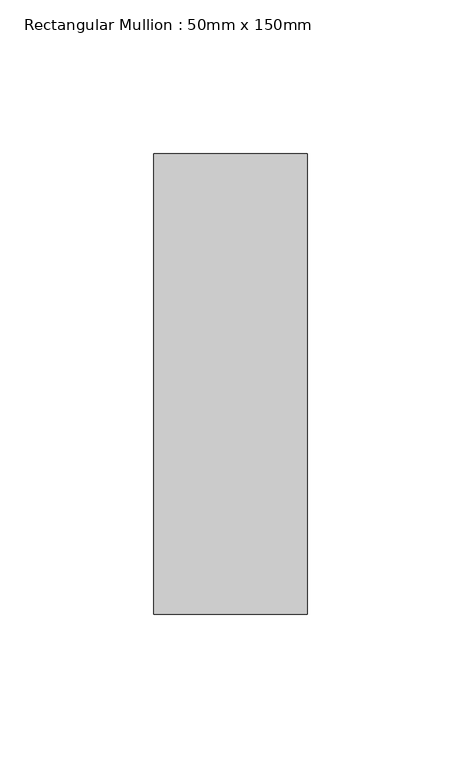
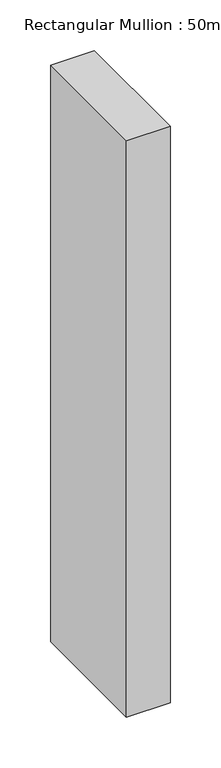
"""IFC4 building model written with IfcOpenShell, lengths in millimetres: member geometry, Rectangular Mullion : 50mm x 150mm."""

import ifcopenshell
import ifcopenshell.guid

model = None  # the IFC model being written
_history = None  # IfcOwnerHistory: only IFC2X3 demands one
_inside = {}  # id of a spatial element -> (the spatial element, [elements in it])
_under = {}  # id of a project, library or spatial element -> (it, [spatial elements below it])
_declared = {}  # id of a project -> (the project, [libraries it declares])
_typed = {}  # id of a type object -> (the type object, [elements of that type])
_made_of = {}  # id of a material, layer set ... -> (it, [elements and type objects made of it])


def new_model(schema):
    """Start an empty IFC model of exactly this schema.

    Asked for "IFC4X3", IfcOpenShell would pick the latest addendum, in which some entities
    have other attributes; the version numbers below select the first issue.
    IFC2X3 requires an IfcOwnerHistory on every rooted entity: one is made here for all.
    """
    global model, _history
    if schema == "IFC4X3":
        model = ifcopenshell.file(schema_version=(4, 3, 0, 0))
    else:
        model = ifcopenshell.file(schema=schema)
    _inside.clear()
    _under.clear()
    _declared.clear()
    _typed.clear()
    _made_of.clear()
    _history = None
    if model.schema == "IFC2X3":
        org = make("IfcOrganization", Name="unknown")
        user = make(
            "IfcPersonAndOrganization",
            ThePerson=make("IfcPerson", FamilyName="unknown"),
            TheOrganization=org,
        )
        app = make(
            "IfcApplication",
            ApplicationDeveloper=org,
            Version="unknown",
            ApplicationFullName="unknown",
            ApplicationIdentifier="unknown",
        )
        _history = make(
            "IfcOwnerHistory",
            OwningUser=user,
            OwningApplication=app,
            ChangeAction="ADDED",
            CreationDate=0,
        )
    return model


def make(cls, **values):
    """One entity of the class cls with the attributes given. An attribute that is None is left unset."""
    return model.create_entity(
        cls, **{name: value for name, value in values.items() if value is not None}
    )


def rooted(cls, **values):
    """An entity with a GlobalId (a new one), such as an element, a storey or a relation."""
    return make(cls, GlobalId=ifcopenshell.guid.new(), OwnerHistory=_history, **values)


def si_unit(unit_type, name, prefix=None):
    """IfcSIUnit, for example si_unit("LENGTHUNIT", "METRE", prefix="MILLI")."""
    return make("IfcSIUnit", UnitType=unit_type, Prefix=prefix, Name=name)


def assignment(units):
    """IfcUnitAssignment: the units of a project."""
    return None if units is None else make("IfcUnitAssignment", Units=units)


def point(xyz):
    """IfcCartesianPoint."""
    return None if xyz is None else make("IfcCartesianPoint", Coordinates=xyz)


def direction(xyz):
    """IfcDirection."""
    return None if xyz is None else make("IfcDirection", DirectionRatios=xyz)


def frame(location, z_axis=None, x_axis=None):
    """IfcAxis2Placement3D, a coordinate frame: its origin and axes. An axis left out is left unset."""
    return make(
        "IfcAxis2Placement3D",
        Location=point(location),
        Axis=direction(z_axis),
        RefDirection=direction(x_axis),
    )


def origin():
    """The frame at (0, 0, 0) with its axes left unset."""
    return frame((0.0, 0.0, 0.0))


def place(relative_to, where):
    """IfcLocalPlacement: puts the frame where relative to a parent placement (None: the world)."""
    return make(
        "IfcLocalPlacement", PlacementRelTo=relative_to, RelativePlacement=where
    )


def context(
    kind, dimensions, precision=None, world=None, true_north=None, identifier=None
):
    """IfcGeometricRepresentationContext, for example the 3D "Model" context."""
    return make(
        "IfcGeometricRepresentationContext",
        ContextIdentifier=identifier,
        ContextType=kind,
        CoordinateSpaceDimension=dimensions,
        Precision=precision,
        WorldCoordinateSystem=world,
        TrueNorth=true_north,
    )


def project(units=None, contexts=None):
    """IfcProject with its units and contexts."""
    return rooted(
        "IfcProject",
        Name="project",
        RepresentationContexts=contexts,
        UnitsInContext=assignment(units),
    )


def spatial(cls, under=None, at=None, **own):
    """A site, building, storey or space (cls), placed at a placement, below another one or the project."""
    s = rooted(cls, ObjectPlacement=at, **own)
    if under is not None:
        _under.setdefault(under.id(), (under, []))[1].append(s)
    return s


def polyline(points):
    """IfcPolyline through the points."""
    return make("IfcPolyline", Points=[point(p) for p in points])


def outline(outer, holes=None, kind="AREA"):
    """IfcArbitraryClosedProfileDef: a profile drawn as a closed curve; with holes, ...WithVoids."""
    if holes is None:
        return make("IfcArbitraryClosedProfileDef", ProfileType=kind, OuterCurve=outer)
    return make(
        "IfcArbitraryProfileDefWithVoids",
        ProfileType=kind,
        OuterCurve=outer,
        InnerCurves=holes,
    )


def extrude(swept, where, along, depth):
    """IfcExtrudedAreaSolid: the profile swept, set in the frame where, extruded along a direction by depth."""
    return make(
        "IfcExtrudedAreaSolid",
        SweptArea=swept,
        Position=where,
        ExtrudedDirection=direction(along),
        Depth=depth,
    )


def shape(context_of_items, identifier, shape_type, items):
    """IfcShapeRepresentation: the items that make up one representation, for example the "Body"."""
    return make(
        "IfcShapeRepresentation",
        ContextOfItems=context_of_items,
        RepresentationIdentifier=identifier,
        RepresentationType=shape_type,
        Items=items,
    )


def source(mapping_origin, context_of_items, identifier, shape_type, items):
    """IfcRepresentationMap: a shape defined once, which mapped items show again and again."""
    return make(
        "IfcRepresentationMap",
        MappingOrigin=mapping_origin,
        MappedRepresentation=shape(context_of_items, identifier, shape_type, items),
    )


def transform(
    local_origin,
    x_axis=None,
    y_axis=None,
    z_axis=None,
    scale=None,
    scale2=None,
    scale3=None,
    uniform=True,
):
    """IfcCartesianTransformationOperator3D, or its non-uniform kind. x_axis, y_axis, z_axis: its Axis1, 2, 3."""
    if uniform:
        return make(
            "IfcCartesianTransformationOperator3D",
            Axis1=direction(x_axis),
            Axis2=direction(y_axis),
            LocalOrigin=point(local_origin),
            Scale=scale,
            Axis3=direction(z_axis),
        )
    return make(
        "IfcCartesianTransformationOperator3DnonUniform",
        Axis1=direction(x_axis),
        Axis2=direction(y_axis),
        LocalOrigin=point(local_origin),
        Scale=scale,
        Axis3=direction(z_axis),
        Scale2=scale2,
        Scale3=scale3,
    )


def mapped(mapping_source, mapping_target):
    """IfcMappedItem: shows the shape of a source again, moved by a transform."""
    return make(
        "IfcMappedItem", MappingSource=mapping_source, MappingTarget=mapping_target
    )


def made_of(thing, what):
    """Note that an element or type object is made of a material, layer set ...; save() writes the relation."""
    if what is not None:
        _made_of.setdefault(what.id(), (what, []))[1].append(thing)
    return thing


def element(
    cls,
    number,
    at=None,
    inside=None,
    cuts=None,
    type_object=None,
    material=None,
    context=None,
    identifier="Body",
    shape_type=None,
    held_by="IfcProductDefinitionShape",
    body=None,
    shapes=None,
    **own,
):
    """One element of the class cls, such as IfcWall. Its Tag is "e" and its number.

    at: its placement. inside: the storey or other place that contains it. cuts: it is an
    opening in that element (IfcRelVoidsElement). A single representation is given by context,
    identifier, shape_type and body (its items); several are given by shapes. held_by: the class
    of the entity that holds the representations. save() writes the other relations.
    """
    e = rooted(cls, Tag="e%d" % number, ObjectPlacement=at, **own)
    if body is not None:
        shapes = [shape(context, identifier, shape_type, body)]
    if shapes is not None:
        e.Representation = make(held_by, Representations=shapes)
    if inside is not None:
        _inside.setdefault(inside.id(), (inside, []))[1].append(e)
    if cuts is not None:
        rooted(
            "IfcRelVoidsElement", RelatingBuildingElement=cuts, RelatedOpeningElement=e
        )
    if type_object is not None:
        _typed.setdefault(type_object.id(), (type_object, []))[1].append(e)
    return made_of(e, material)


def aggregate(whole, parts):
    """IfcRelAggregates: a whole, such as a stair, and the parts it consists of."""
    return rooted("IfcRelAggregates", RelatingObject=whole, RelatedObjects=parts)


def save(model, path):
    """Write the relations noted so far, then the file.

    IfcRelAggregates (storeys below a building ...), IfcRelContainedInSpatialStructure (elements
    in a storey), IfcRelDefinesByType, IfcRelAssociatesMaterial and IfcRelDeclares: one each for
    every whole, place, type object, material and project.
    """
    for whole, parts in _under.values():
        aggregate(whole, parts)
    for where, things in _inside.values():
        rooted(
            "IfcRelContainedInSpatialStructure",
            RelatedElements=things,
            RelatingStructure=where,
        )
    for kind, things in _typed.values():
        rooted("IfcRelDefinesByType", RelatedObjects=things, RelatingType=kind)
    for what, things in _made_of.values():
        rooted("IfcRelAssociatesMaterial", RelatedObjects=things, RelatingMaterial=what)
    for by, libraries in _declared.values():
        rooted("IfcRelDeclares", RelatingContext=by, RelatedDefinitions=libraries)
    model.write(path)


def rectangular_mullion_50mm_x_150mm_10ca3b23(model_context):
    return source(origin(), model_context, "Body", "SweptSolid", [
        extrude(outline(polyline([(0.0, 75.0), (0.0, -75.0), (-50.0, -75.0), (-50.0, 75.0), (0.0, 75.0)])), frame((0.0, 0.0, -695.9168295), z_axis=(0.0, 0.0, 1.0), x_axis=(1.0, 0.0, 0.0)), (0.0, 0.0, 1.0), 695.9168295),
    ])


if __name__ == "__main__":
    model = new_model("IFC4")
    model_context = context("Model", 3, world=origin())
    ifc_project = project(units=[si_unit("LENGTHUNIT", "METRE", prefix="MILLI")], contexts=[model_context])
    site = spatial("IfcSite", under=ifc_project)
    building = spatial("IfcBuilding", under=site)
    placement = place(None, origin())
    rectangular_mullion_50mm_x_150mm_shape = rectangular_mullion_50mm_x_150mm_10ca3b23(model_context)
    element("IfcMember", 1, ObjectType="Rectangular Mullion : 50mm x 150mm", at=placement, inside=building, context=model_context, shape_type="MappedRepresentation", body=[
        mapped(rectangular_mullion_50mm_x_150mm_shape, transform((0.0, 0.0, 0.0), x_axis=(1.0, 0.0, 0.0), y_axis=(0.0, 1.0, 0.0), z_axis=(0.0, 0.0, 1.0))),
    ])
    save(model, "model.ifc")
